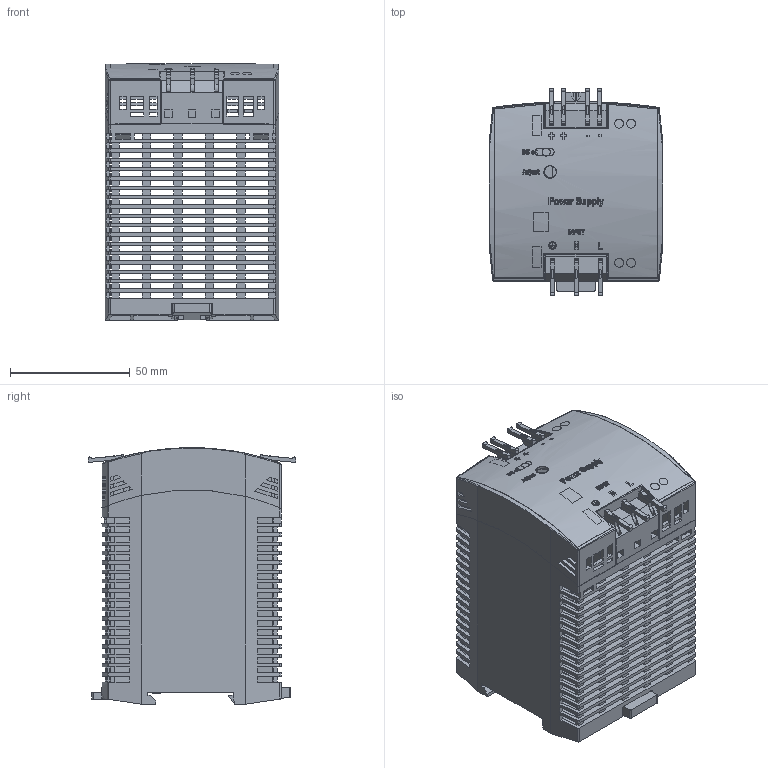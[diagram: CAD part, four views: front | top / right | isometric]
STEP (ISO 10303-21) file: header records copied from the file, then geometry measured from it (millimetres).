
FILE_DESCRIPTION((''),'2;1');
FILE_NAME('C:\Users\rahns\Desktop\Sylvia Info´s\Dateien für Vertrieb\ML95\md3_ml95_100.stp','2012-06-19T10:29:45',('rahns'),(''),'Autodesk Inventor 2009','Autodesk Inventor 2009','');
FILE_SCHEMA(('AUTOMOTIVE_DESIGN { 1 0 10303 214 1 1 1 1 }'));
Length unit declared in the file: millimetre
Products named in the file (7): 328; HOUSING BODY 328; HOUSING COVER 328; SLIDER 322; TERMINAL 4P R5+10_o; TERMINAL 3P R10; FRONTFOIL 328
Assembly tree (6 placements, depth 2):
  328
    HOUSING BODY 328
    HOUSING COVER 328
    SLIDER 322
    TERMINAL 4P R5+10_o
    TERMINAL 3P R10
    FRONTFOIL 328
Bounding box: 72.5 x 86.7 x 107.1 mm (x, y, z)
Volume: 69205.3 mm3; surface area: 104502.8 mm2
Topology: 9 solids, 13 shells, 2416 faces, 7964 edges, 5284 vertices
Faces by surface type: plane 1797, cylinder 398, bspline 205, cone 16
Full cylindrical faces by diameter (mm): 1.2 x7, 3.7 x4, 5.2 x1
Entity records: 153442 total; most frequent: CARTESIAN_POINT 81453, ORIENTED_EDGE 15902, DIRECTION 12993, EDGE_CURVE 7951, VECTOR 6043, LINE 6043, VERTEX_POINT 5283, AXIS2_PLACEMENT_3D 3475
